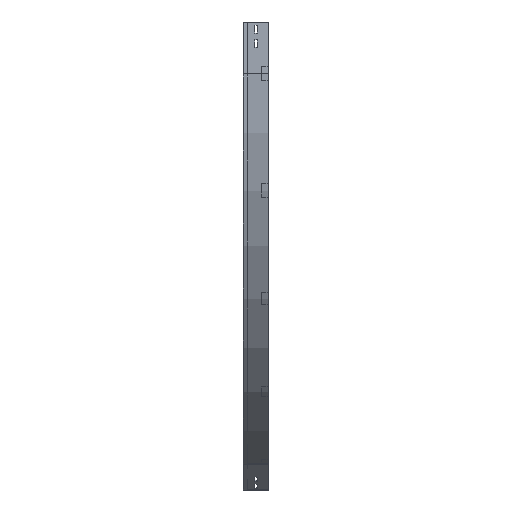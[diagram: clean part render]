
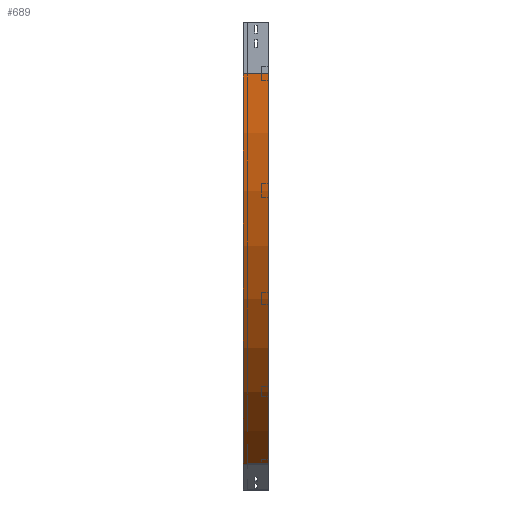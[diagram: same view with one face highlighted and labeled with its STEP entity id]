
A CAD part, left-side view. The second image highlights one B-rep face of the part: STEP entity #689.
In plain terms, the highlighted cylindrical face has radius 1300 mm (diameter 2600 mm), a partial arc.
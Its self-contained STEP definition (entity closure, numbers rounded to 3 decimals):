
#10 = VERTEX_POINT ( 'NONE', #117 ) ;
#21 = VERTEX_POINT ( 'NONE', #3415 ) ;
#53 = EDGE_CURVE ( 'NONE', #21, #1045, #1095, .T. ) ;
#73 = CYLINDRICAL_SURFACE ( 'NONE', #2799, 1300. ) ;
#107 = CARTESIAN_POINT ( 'NONE',  ( 1300., 0., -150. ) ) ;
#117 = CARTESIAN_POINT ( 'NONE',  ( 650., 0., -1275.833 ) ) ;
#145 = EDGE_CURVE ( 'NONE', #1045, #10, #3158, .T. ) ;
#263 = EDGE_CURVE ( 'NONE', #21, #2505, #1210, .T. ) ;
#483 = DIRECTION ( 'NONE',  ( 0., -1., 0. ) ) ;
#689 = ADVANCED_FACE ( 'NONE', ( #1908 ), #73, .T. ) ;
#777 = LINE ( 'NONE', #3805, #2374 ) ;
#792 = VECTOR ( 'NONE', #2031, 1000. ) ;
#835 = ORIENTED_EDGE ( 'NONE', *, *, #53, .F. ) ;
#843 = CARTESIAN_POINT ( 'NONE',  ( 1300., 0., -150. ) ) ;
#884 = DIRECTION ( 'NONE',  ( 0., -1., 0. ) ) ;
#928 = EDGE_CURVE ( 'NONE', #2505, #10, #777, .T. ) ;
#954 = DIRECTION ( 'NONE',  ( 0., -1., 0. ) ) ;
#1045 = VERTEX_POINT ( 'NONE', #2713 ) ;
#1095 = LINE ( 'NONE', #3477, #792 ) ;
#1156 = DIRECTION ( 'NONE',  ( -1., 0., 0. ) ) ;
#1210 = CIRCLE ( 'NONE', #3401, 1300. ) ;
#1273 = AXIS2_PLACEMENT_3D ( 'NONE', #843, #2945, #1156 ) ;
#1306 = ORIENTED_EDGE ( 'NONE', *, *, #928, .T. ) ;
#1351 = ORIENTED_EDGE ( 'NONE', *, *, #145, .F. ) ;
#1577 = DIRECTION ( 'NONE',  ( 0., 0., -1. ) ) ;
#1733 = CARTESIAN_POINT ( 'NONE',  ( 650., 75., -1275.833 ) ) ;
#1908 = FACE_OUTER_BOUND ( 'NONE', #2950, .T. ) ;
#2031 = DIRECTION ( 'NONE',  ( 0., -1., 0. ) ) ;
#2374 = VECTOR ( 'NONE', #483, 1000. ) ;
#2505 = VERTEX_POINT ( 'NONE', #1733 ) ;
#2713 = CARTESIAN_POINT ( 'NONE',  ( 0., 0., -150. ) ) ;
#2799 = AXIS2_PLACEMENT_3D ( 'NONE', #107, #954, #1577 ) ;
#2945 = DIRECTION ( 'NONE',  ( 0., -1., 0. ) ) ;
#2950 = EDGE_LOOP ( 'NONE', ( #1351, #835, #3447, #1306 ) ) ;
#3039 = DIRECTION ( 'NONE',  ( -1., 0., 0. ) ) ;
#3158 = CIRCLE ( 'NONE', #1273, 1300. ) ;
#3401 = AXIS2_PLACEMENT_3D ( 'NONE', #3853, #884, #3039 ) ;
#3415 = CARTESIAN_POINT ( 'NONE',  ( 0., 75., -150. ) ) ;
#3447 = ORIENTED_EDGE ( 'NONE', *, *, #263, .T. ) ;
#3477 = CARTESIAN_POINT ( 'NONE',  ( 0., 0., -150. ) ) ;
#3805 = CARTESIAN_POINT ( 'NONE',  ( 650., 0., -1275.833 ) ) ;
#3853 = CARTESIAN_POINT ( 'NONE',  ( 1300., 75., -150. ) ) ;
